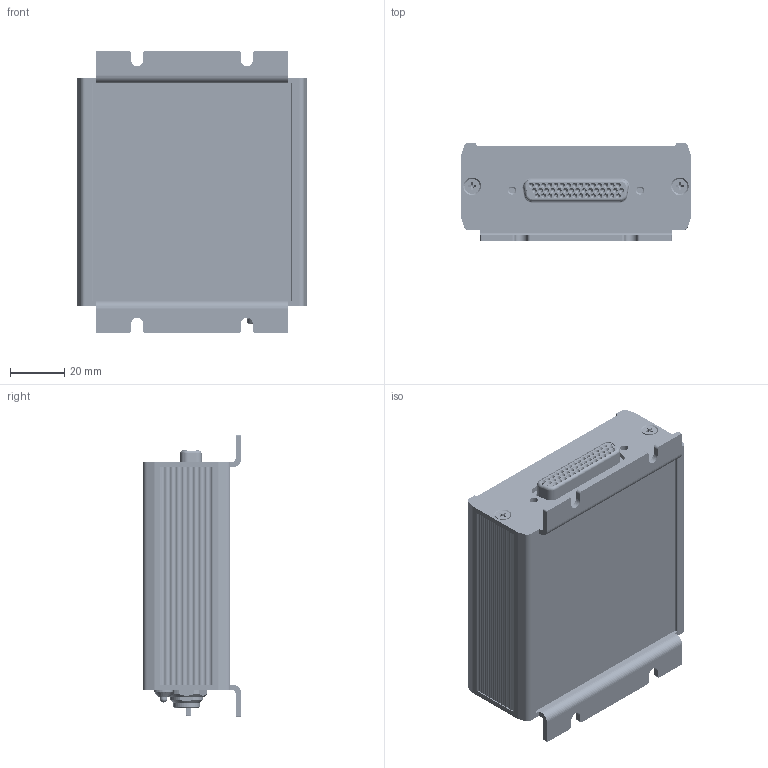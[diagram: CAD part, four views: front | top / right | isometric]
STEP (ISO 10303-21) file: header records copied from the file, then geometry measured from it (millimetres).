
FILE_DESCRIPTION (( 'STEP AP203' ), '1' );
FILE_NAME ('GSV-61T6_EC_SubD44HD.STEP', '2025-09-24T10:13:57', ( '' ), ( '' ), 'SwSTEP 2.0', 'SolidWorks 2024', '' );
FILE_SCHEMA (( 'CONFIG_CONTROL_DESIGN' ));
Length unit declared in the file: millimetre
Products named in the file (27): 629722000214_Shielding2; E-2024-0062-01017_61EC; 629722000214_Pin3_Bottom_mir; GSV-61T6_EC_SubD44HD; NT-2025-00370; countersunk flat head cross recess screw_din_DIN EN ISO 7046-1 - M3 x 4 - Z - 4N; E-2024-0062-01056_61EC; E-2024-0062-00140; 629722000214_Pin1_Top; 629722000214_Pin1_Bottom; 629722000214_Pin2_Top_mir; 629722000214_Pin1_Bottom_mir; 629722000214_Pin4_Bottom_mir; 629722000214_Pin4_Bottom; NT-2025-00394; 629722000214_Housing; 629722000214_Pin3_Bottom; NT-2025-00393; 629722000214_Pin2_Top; 629722000214_Pin1_Top_mir; 629722000214_Pin4_Top; 629722000214_Pin2_Bottom_mir; 629722000214_Pin3_Top; NT-2025-00391; 629722000214_Pin2_Bottom; 629722000214_Pin3_Top_mir; 629722000214_Shielding
Assembly tree (30 placements, depth 3):
  GSV-61T6_EC_SubD44HD
    E-2024-0062-01017_61EC
    E-2024-0062-00140
    E-2024-0062-01056_61EC
    NT-2025-00391
    NT-2025-00370
    NT-2025-00393
      629722000214_Housing
      629722000214_Pin1_Top
      629722000214_Pin4_Bottom
      629722000214_Pin4_Top  x2
      629722000214_Pin1_Bottom
      629722000214_Pin3_Bottom
      629722000214_Pin3_Top
      629722000214_Pin2_Top
      629722000214_Pin2_Bottom
      629722000214_Pin1_Top_mir
      629722000214_Pin1_Bottom_mir
      629722000214_Pin2_Top_mir
      629722000214_Pin2_Bottom_mir
      629722000214_Pin3_Top_mir
      629722000214_Pin3_Bottom_mir
      629722000214_Pin4_Bottom_mir
      629722000214_Shielding2
      629722000214_Shielding
    countersunk flat head cross recess screw_din_DIN EN ISO 7046-1 - M3 x 4 - Z - 4N  x4
    NT-2025-00394
Bounding box: 84.3 x 36 x 104 mm (x, y, z)
Volume: 47803.8 mm3; surface area: 68528.4 mm2
Topology: 28 solids, 47 shells, 5960 faces, 15954 edges, 10172 vertices
Faces by surface type: plane 2328, cylinder 1486, cone 1192, torus 586, bspline 363, sphere 5
Entity records: 202025 total; most frequent: CARTESIAN_POINT 54354, ORIENTED_EDGE 31166, DIRECTION 29457, EDGE_CURVE 15586, AXIS2_PLACEMENT_3D 10840, VERTEX_POINT 9971, VECTOR 7777, LINE 7777
